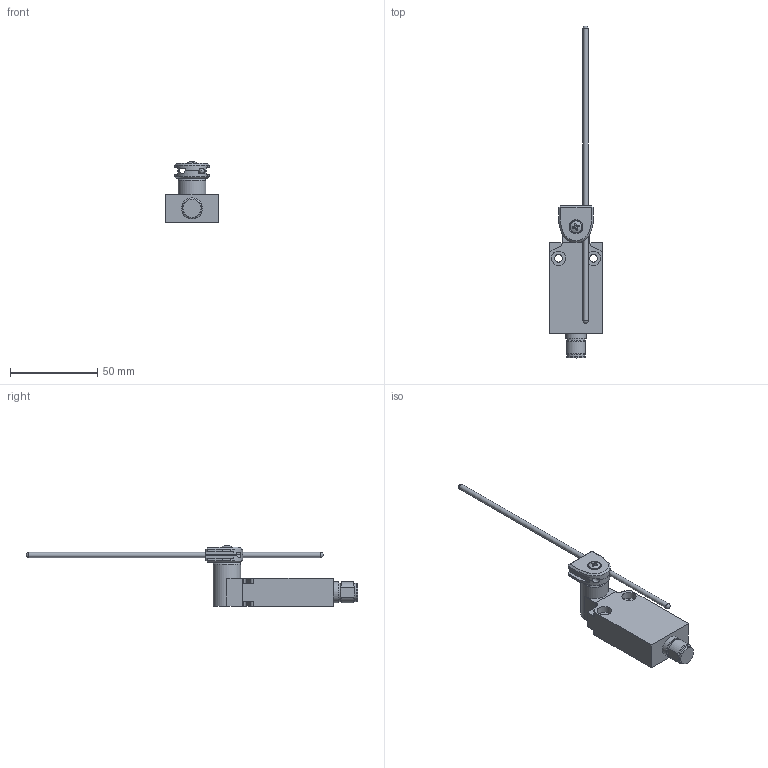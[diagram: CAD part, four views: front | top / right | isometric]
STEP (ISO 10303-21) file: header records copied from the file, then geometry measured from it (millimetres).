
FILE_DESCRIPTION(/* description */ (''),/* implementation_level */ '2;1');
FILE_NAME(/* name */ 'C:\Users\servizio.tecnico\Desktop\BERNSTEIN\3D\STP_EM1_G7140MC.stp',/* time_stamp */ '2020-06-26T11:20:21+02:00',/* author */ ('servizio.tecnico'),/* organization */ (''),/* preprocessor_version */ 'ST-DEVELOPER v17',/* originating_system */ 'Autodesk Inventor 2019',/* authorisation */ '');
FILE_SCHEMA (('AUTOMOTIVE_DESIGN { 1 0 10303 214 3 1 1 }'));
Length unit declared in the file: millimetre
Products named in the file (11): STP_EM1_G41M; EM1G41-M; Product; G7120; vi2617pe; fu2065pe_3; asta inox; fu2065pe_3 INOX; fu 4120; MC; Product_1
Assembly tree (10 placements, depth 3):
  STP_EM1_G41M
    EM1G41-M
      Product
    G7120
      vi2617pe
      fu2065pe_3
      asta inox
      fu2065pe_3 INOX
      fu 4120
    MC
      Product_1
Bounding box: 30 x 189.86 x 34.7 mm (x, y, z)
Volume: 33440.6 mm3; surface area: 13517.8 mm2
Topology: 7 solids, 7 shells, 222 faces, 566 edges, 371 vertices
Faces by surface type: plane 137, cylinder 68, cone 8, bspline 3, torus 3, sphere 3
Full cylindrical faces by diameter (mm): 3 x1, 3.5 x22, 4.4 x2, 5 x3, 7 x1, 8 x2, 8.2 x4, 10.3 x1, 10.6 x2, 12 x1, 15.8 x1
Entity records: 10149 total; most frequent: CARTESIAN_POINT 4281, DIRECTION 1140, ORIENTED_EDGE 1128, EDGE_CURVE 564, AXIS2_PLACEMENT_3D 394, VERTEX_POINT 371, LINE 352, VECTOR 352
